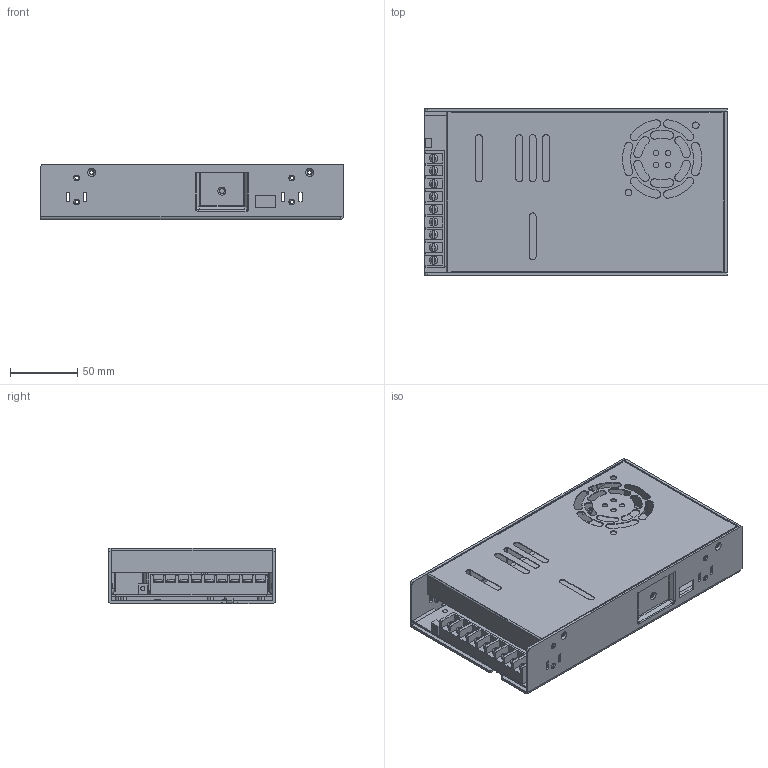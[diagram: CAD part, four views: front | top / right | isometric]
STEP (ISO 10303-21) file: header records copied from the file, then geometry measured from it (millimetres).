
FILE_DESCRIPTION((''),'2;1');
FILE_NAME('LRS-600_ASM_ASM','2022-03-02T10:13:03',('shalinice'),(''),'CREO PARAMETRIC BY PTC INC, 2016390','CREO PARAMETRIC BY PTC INC, 2016390','');
FILE_SCHEMA(('AUTOMOTIVE_DESIGN { 1 0 10303 214 1 1 1 1 }'));
Length unit declared in the file: millimetre
Products named in the file (5): LRS-600-D; LRS-600-T; PCB1_1; PCB_5; LRS-600_ASM_ASM
Assembly tree (4 placements, depth 2):
  LRS-600_ASM_ASM
    LRS-600-D
    LRS-600-T
    PCB1_1
    PCB_5
Bounding box: 225 x 124 x 41 mm (x, y, z)
Volume: 209473.1 mm3; surface area: 265036.3 mm2
Topology: 4 solids, 4 shells, 870 faces, 2248 edges, 1417 vertices
Faces by surface type: plane 438, cylinder 308, torus 64, bspline 42, cone 14, sphere 4
Entity records: 37855 total; most frequent: CARTESIAN_POINT 6907, DIRECTION 4697, ORIENTED_EDGE 4488, EDGE_CURVE 2244, PRESENTATION_STYLE_ASSIGNMENT 2145, AXIS2_PLACEMENT_3D 1701, STYLED_ITEM 1550, CURVE_STYLE 1546
